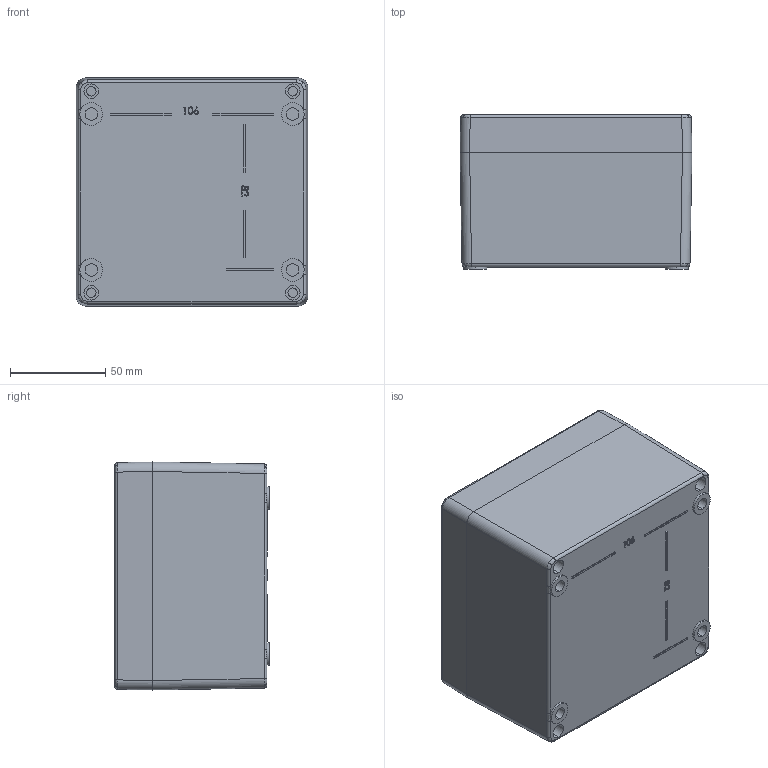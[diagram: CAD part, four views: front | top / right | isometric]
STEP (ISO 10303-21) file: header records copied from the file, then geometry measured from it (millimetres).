
FILE_DESCRIPTION (( 'STEP AP214' ), '1' );
FILE_NAME ('Zag 9 Assembly.STEP', '2016-05-03T08:09:55', ( '' ), ( '' ), 'SwSTEP 2.0', 'SolidWorks 2015', '' );
FILE_SCHEMA (( 'AUTOMOTIVE_DESIGN' ));
Length unit declared in the file: millimetre
Products named in the file (4): Zag 9 Lid; Zag 9 Body; Zag 9 Assembly; pan head cross recess screw_bsi_ISO 7045 - M5 x 25 - Z --- 25N
Assembly tree (6 placements, depth 2):
  Zag 9 Assembly
    Zag 9 Body
    Zag 9 Lid
    pan head cross recess screw_bsi_ISO 7045 - M5 x 25 - Z --- 25N  x4
Bounding box: 122 x 81.2 x 120 mm (x, y, z)
Volume: 335345.8 mm3; surface area: 149455.5 mm2
Topology: 6 solids, 6 shells, 693 faces, 1727 edges, 1086 vertices
Faces by surface type: plane 305, cylinder 169, cone 98, bspline 61, torus 52, sphere 8
Entity records: 20826 total; most frequent: CARTESIAN_POINT 6477, ORIENTED_EDGE 2918, DIRECTION 2888, EDGE_CURVE 1459, AXIS2_PLACEMENT_3D 1040, VERTEX_POINT 933, LINE 808, VECTOR 808
